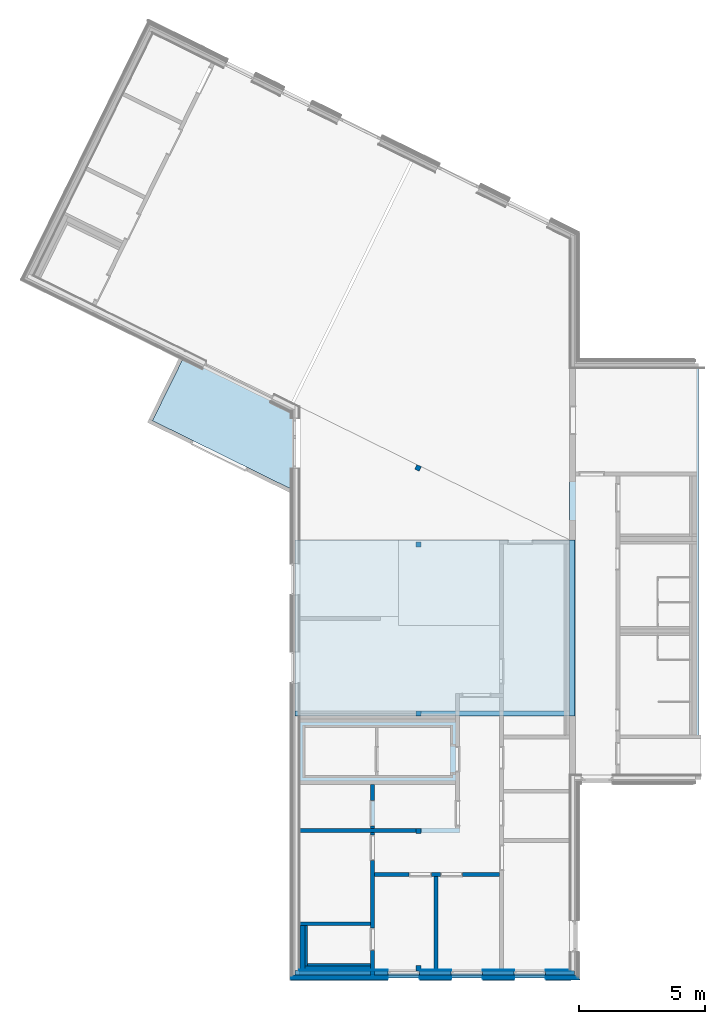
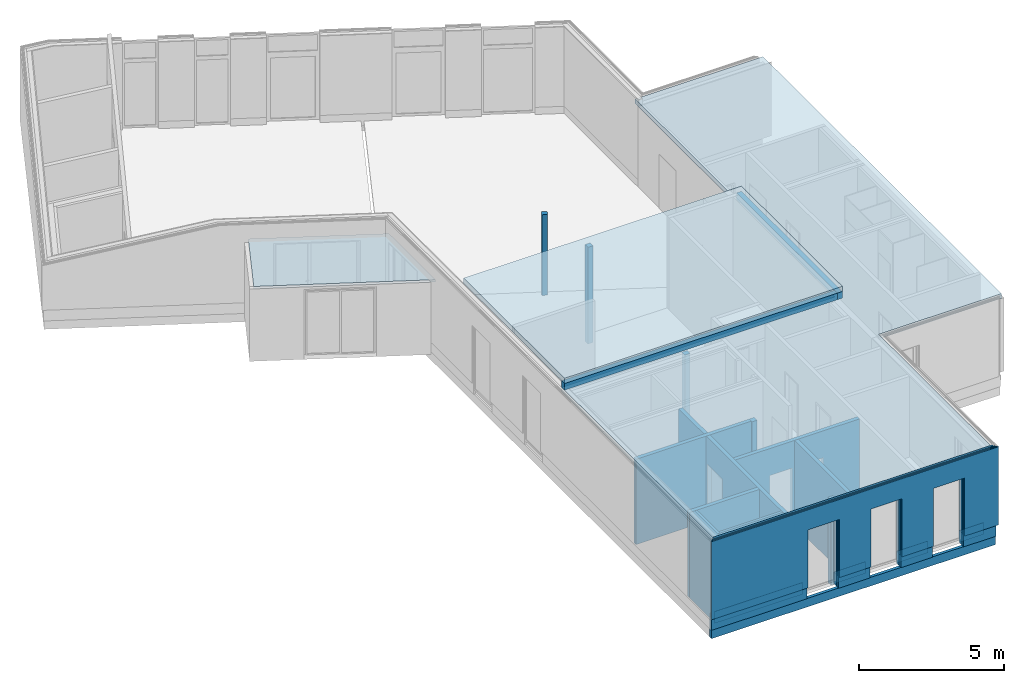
# One storey, part 1 of 23: 21 walls, 5 columns, 3 slabs, 2 beams, 38 openings.
"""IFC4 building model written with IfcOpenShell, lengths in metres."""

from ifc_helpers import new_model, entity, si_unit, converted_unit, derived_unit, frame, frame_2d, origin, origin_with_axes, place, context, subcontext, project, spatial, polyline, rectangle, outline, extrude, material, element, save


model = new_model("IFC4")

# Units and contexts
model_context = context("Model", 3, precision=1e-05, world=origin())
body_context = subcontext(model_context, "Body", "Model", "MODEL_VIEW")
ifc_project = project(units=[si_unit("LENGTHUNIT", "METRE"), si_unit("AREAUNIT", "SQUARE_METRE"), si_unit("VOLUMEUNIT", "CUBIC_METRE"), si_unit("MASSUNIT", "GRAM", prefix="KILO"), converted_unit("PLANEANGLEUNIT", "DEGREE", entity("IfcPlaneAngleMeasure", 0.0174532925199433), si_unit("PLANEANGLEUNIT", "RADIAN"), dimensions=[0, 0, 0, 0, 0, 0, 0]), derived_unit("THERMALTRANSMITTANCEUNIT", [(si_unit("POWERUNIT", "WATT"), 1), (si_unit("THERMODYNAMICTEMPERATUREUNIT", "KELVIN"), -1), (si_unit("LENGTHUNIT", "METRE"), -2)]), derived_unit("VOLUMETRICFLOWRATEUNIT", [(si_unit("LENGTHUNIT", "METRE"), 3), (converted_unit("TIMEUNIT", "hour", entity("IfcTimeMeasure", 3600.0), si_unit("TIMEUNIT", "SECOND"), dimensions=[0, 0, 1, 0, 0, 0, 0]), -1), (si_unit("LENGTHUNIT", "METRE"), -1)])], contexts=[model_context])

# Site, building, storey
site_placement = place(None, origin())
site = spatial("IfcSite", under=ifc_project, at=site_placement, Name="Psychiatrie Neubau Wunstorf", CompositionType="ELEMENT")
building_placement = place(site_placement, origin())
building = spatial("IfcBuilding", under=site, at=building_placement, Name="Neubau H1 Sozialzentrum", CompositionType="ELEMENT")
storey_placement = place(building_placement, frame((0.0, 0.0, 0.7)))
storey = spatial("IfcBuildingStorey", under=building, at=storey_placement, Name="H1 Ebene 0", CompositionType="ELEMENT", Elevation=0.7)

# Columns
ifc_material_1 = material(Name="ST-H")
column_1_placement = place(storey_placement, frame((-11.0459348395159, 24.1964903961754, 0.0)))
element("IfcColumn", 1, at=column_1_placement, inside=storey, material=ifc_material_1, PredefinedType="COLUMN", context=body_context, shape_type="SweptSolid", body=[
    extrude(rectangle(XDim=0.200000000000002, YDim=0.200000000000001, at=frame_2d((-0.133912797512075, -0.0454682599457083), x_axis=(-0.896905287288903, 0.442222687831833))), origin_with_axes(), (0.0, 0.0, 1.0), 3.4),
])
ifc_material_2 = material(Name="ST-ST")
column_2_placement = place(storey_placement, frame((-11.0545268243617, 9.86239262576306, -0.2)))
element("IfcColumn", 2, at=column_2_placement, inside=storey, material=ifc_material_2, PredefinedType="COLUMN", context=body_context, shape_type="SweptSolid", body=[
    extrude(rectangle(XDim=0.2, YDim=0.2, at=frame_2d((-0.1, -0.1), x_axis=(-1.0, 0.0))), origin_with_axes(), (0.0, 0.0, 1.0), 3.6),
])
ifc_material_3 = material(Name="ST-ST")
column_3_placement = place(storey_placement, frame((-11.0545268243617, 14.5122462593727, -0.2)))
element("IfcColumn", 3, at=column_3_placement, inside=storey, material=ifc_material_3, PredefinedType="COLUMN", context=body_context, shape_type="SweptSolid", body=[
    extrude(rectangle(XDim=0.2, YDim=0.2, at=frame_2d((-0.1, -0.1), x_axis=(-1.0, 0.0))), origin_with_axes(), (0.0, 0.0, 1.0), 3.6),
])
ifc_material_4 = material(Name="ST-ST")
column_4_placement = place(storey_placement, frame((-11.0545268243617, 4.42632131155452, -0.2)))
element("IfcColumn", 4, at=column_4_placement, inside=storey, material=ifc_material_4, PredefinedType="COLUMN", context=body_context, shape_type="SweptSolid", body=[
    extrude(rectangle(XDim=0.2, YDim=0.2, at=frame_2d((-0.1, -0.1), x_axis=(-1.0, 0.0))), origin_with_axes(), (0.0, 0.0, 1.0), 3.6),
])
ifc_material_5 = material(Name="ST-ST")
column_5_placement = place(storey_placement, frame((-11.0545268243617, 21.211337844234, -0.2)))
element("IfcColumn", 5, at=column_5_placement, inside=storey, material=ifc_material_5, PredefinedType="COLUMN", context=body_context, shape_type="SweptSolid", body=[
    extrude(rectangle(XDim=0.2, YDim=0.2, at=frame_2d((-0.1, -0.1), x_axis=(-1.0, 0.0))), origin_with_axes(), (0.0, 0.0, 1.0), 4.08),
])

# Beams
ifc_material_6 = material(Name="Holz")
beam_1_placement = place(storey_placement, frame((-5.16652529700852, 21.2882463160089, 3.6), z_axis=(0.0, 0.0, 1.0), x_axis=(0.0, -1.0, 0.0)))
element("IfcBeam", 6, at=beam_1_placement, inside=storey, material=ifc_material_6, PredefinedType="NOTDEFINED", context=body_context, shape_type="SweptSolid", body=[
    extrude(rectangle(XDim=0.2, YDim=0.28, at=frame_2d((0.1, 0.14), x_axis=(1.0, 0.0))), frame((0.0, 0.0, 0.0), z_axis=(1.0, 0.0, 0.0), x_axis=(0.0, 1.0, 0.0)), (0.0, 0.0, 1.0), 6.97600005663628),
])
ifc_material_7 = material(Name="Holz")
beam_2_placement = place(storey_placement, frame((-5.16652529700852, 14.5122462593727, 3.6), z_axis=(0.0, 0.0, 1.0), x_axis=(-1.0, 0.0, 0.0)))
element("IfcBeam", 7, at=beam_2_placement, inside=storey, material=ifc_material_7, PredefinedType="NOTDEFINED", context=body_context, shape_type="SweptSolid", body=[
    extrude(rectangle(XDim=0.2, YDim=0.28, at=frame_2d((0.1, 0.14), x_axis=(1.0, 0.0))), frame((0.0, 0.0, 0.0), z_axis=(1.0, 0.0, 0.0), x_axis=(0.0, 1.0, 0.0)), (0.0, 0.0, 1.0), 10.892000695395),
])

# Slabs
ifc_material_8 = material(Name="H")
slab_1_placement = place(storey_placement, frame((-16.0585259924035, 14.3122462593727, 3.88)))
element("IfcSlab", 8, at=slab_1_placement, inside=storey, material=ifc_material_8, PredefinedType="FLOOR", context=body_context, shape_type="SweptSolid", body=[
    extrude(rectangle(XDim=11.0880010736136, YDim=6.97600005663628, at=frame_2d((5.5440005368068, 3.48800002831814), x_axis=(1.0, 0.0))), origin_with_axes(), (0.0, 0.0, 1.0), 0.22),
])
ifc_material_9 = material(Name="H")
slab_2_placement = place(storey_placement, frame((-16.0585259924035, 4.06632204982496, 3.4)))
element("IfcSlab", 9, at=slab_2_placement, inside=storey, material=ifc_material_9, PredefinedType="FLOOR", context=body_context, shape_type="SweptSolid", body=[
    extrude(outline(polyline([(0.0, 10.4459242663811), (0.0, 0.0), (11.0880010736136, 0.0), (11.0880010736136, 7.72992418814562), (15.9925259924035, 7.72992418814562), (15.9925259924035, 24.2239225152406), (10.892000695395, 24.2239225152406), (10.892000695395, 10.4459242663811), (0.0, 10.4459242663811)])), origin_with_axes(), (0.0, 0.0, 1.0), 0.2),
])
ifc_material_10 = material(Name="H")
slab_3_placement = place(storey_placement, frame((-21.7041744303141, 23.2392562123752, 2.75)))
element("IfcSlab", 10, at=slab_3_placement, inside=storey, material=ifc_material_10, PredefinedType="FLOOR", context=body_context, shape_type="SweptSolid", body=[
    extrude(outline(polyline([(1.27325741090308, 5.36600733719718), (0.0, 2.78360100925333), (5.64564843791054, 0.0), (5.64564766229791, 3.21018308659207), (1.27325741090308, 5.36600733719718)])), origin_with_axes(), (0.0, 0.0, 1.0), 0.1),
])

# Wall, openings
ifc_material_11 = material(Name="WA-LB")
wall_1_placement = place(storey_placement, frame((-5.13052506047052, 4.26232136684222, 0.3), z_axis=(0.0, 0.0, 1.0), x_axis=(-1.0, 5.08476275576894e-16, 0.0)))
wall_1 = element("IfcWall", 11, at=wall_1_placement, inside=storey, material=ifc_material_11, context=body_context, shape_type="SweptSolid", body=[
    extrude(rectangle(XDim=10.7320016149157, YDim=0.0359999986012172, at=frame_2d((5.36600080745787, 0.0179999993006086), x_axis=(1.0, 0.0))), origin_with_axes(), (0.0, 0.0, 1.0), 3.1),
])
opening_1_placement = place(wall_1_placement, frame((5.98800145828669, 0.0, -0.5), z_axis=(0.0, 1.0, 0.0), x_axis=(0.0, 0.0, 1.0)))
element("IfcOpeningElement", 12, at=opening_1_placement, cuts=wall_1, Name="Fensteröffnung", ObjectType="Opening", context=body_context, shape_type="SweptSolid", body=[
    extrude(outline(polyline([(2.95, 1.25), (2.95, 0.0), (0.0, 0.0), (0.0, 1.25), (2.95, 1.25)])), origin_with_axes(), (0.0, 0.0, 1.0), 0.0359999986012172),
])
opening_2_placement = place(wall_1_placement, frame((0.988001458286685, 0.0, -0.5), z_axis=(0.0, 1.0, 0.0), x_axis=(0.0, 0.0, 1.0)))
element("IfcOpeningElement", 13, at=opening_2_placement, cuts=wall_1, Name="Fensteröffnung", ObjectType="Opening", context=body_context, shape_type="SweptSolid", body=[
    extrude(outline(polyline([(2.95, 1.25), (2.95, 0.0), (0.0, 0.0), (0.0, 1.25), (2.95, 1.25)])), origin_with_axes(), (0.0, 0.0, 1.0), 0.0359999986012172),
])
opening_3_placement = place(wall_1_placement, frame((3.48800145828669, 0.0, -0.5), z_axis=(0.0, 1.0, 0.0), x_axis=(0.0, 0.0, 1.0)))
element("IfcOpeningElement", 14, at=opening_3_placement, cuts=wall_1, Name="Fensteröffnung", ObjectType="Opening", context=body_context, shape_type="SweptSolid", body=[
    extrude(outline(polyline([(2.95, 1.25), (2.95, 0.0), (0.0, 0.0), (0.0, 1.25), (2.95, 1.25)])), origin_with_axes(), (0.0, 0.0, 1.0), 0.0359999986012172),
])

ifc_material_12 = material(Name="WA-HD")
wall_2_placement = place(storey_placement, frame((-4.97052496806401, 4.226321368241, 0.3), z_axis=(0.0, 0.0, 1.0), x_axis=(-1.0, 4.9935645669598e-16, 0.0)))
wall_2 = element("IfcWall", 15, at=wall_2_placement, inside=storey, material=ifc_material_12, context=body_context, shape_type="SweptSolid", body=[
    extrude(rectangle(XDim=10.9280017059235, YDim=0.159999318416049, at=frame_2d((5.46400085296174, 0.0799996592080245), x_axis=(1.0, 0.0))), origin_with_axes(), (0.0, 0.0, 1.0), 3.1),
])
opening_4_placement = place(wall_2_placement, frame((6.14800155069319, 0.0, -0.5), z_axis=(0.0, 1.0, 0.0), x_axis=(0.0, 0.0, 1.0)))
element("IfcOpeningElement", 16, at=opening_4_placement, cuts=wall_2, Name="Fensteröffnung", ObjectType="Opening", context=body_context, shape_type="SweptSolid", body=[
    extrude(outline(polyline([(2.95, 1.25), (2.95, 0.0), (0.0, 0.0), (0.0, 1.25), (2.95, 1.25)])), origin_with_axes(), (0.0, 0.0, 1.0), 0.159999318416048),
])
opening_5_placement = place(wall_2_placement, frame((1.14800155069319, 0.0, -0.5), z_axis=(0.0, 1.0, 0.0), x_axis=(0.0, 0.0, 1.0)))
element("IfcOpeningElement", 17, at=opening_5_placement, cuts=wall_2, Name="Fensteröffnung", ObjectType="Opening", context=body_context, shape_type="SweptSolid", body=[
    extrude(outline(polyline([(2.95, 1.25), (2.95, 0.0), (0.0, 0.0), (0.0, 1.25), (2.95, 1.25)])), origin_with_axes(), (0.0, 0.0, 1.0), 0.159999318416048),
])
opening_6_placement = place(wall_2_placement, frame((3.64800155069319, 0.0, -0.5), z_axis=(0.0, 1.0, 0.0), x_axis=(0.0, 0.0, 1.0)))
element("IfcOpeningElement", 18, at=opening_6_placement, cuts=wall_2, Name="Fensteröffnung", ObjectType="Opening", context=body_context, shape_type="SweptSolid", body=[
    extrude(outline(polyline([(2.95, 1.25), (2.95, 0.0), (0.0, 0.0), (0.0, 1.25), (2.95, 1.25)])), origin_with_axes(), (0.0, 0.0, 1.0), 0.159999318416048),
])

ifc_material_13 = material(Name="WA-DL")
wall_3_placement = place(storey_placement, frame((-4.89052488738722, 4.06632204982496, 0.3), z_axis=(0.0, 0.0, 1.0), x_axis=(-1.0, 4.88625328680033e-16, 0.0)))
wall_3 = element("IfcWall", 19, at=wall_3_placement, inside=storey, material=ifc_material_13, context=body_context, shape_type="SweptSolid", body=[
    extrude(rectangle(XDim=11.1680011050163, YDim=0.0800000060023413, at=frame_2d((5.58400055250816, 0.0400000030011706), x_axis=(1.0, 0.0))), origin_with_axes(), (0.0, 0.0, 1.0), 3.3),
])
opening_7_placement = place(wall_3_placement, frame((6.22800163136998, 0.0, -0.5), z_axis=(0.0, 1.0, 0.0), x_axis=(0.0, 0.0, 1.0)))
element("IfcOpeningElement", 20, at=opening_7_placement, cuts=wall_3, Name="Fensteröffnung", ObjectType="Opening", context=body_context, shape_type="SweptSolid", body=[
    extrude(outline(polyline([(2.95, 1.25), (2.95, 0.0), (0.0, 0.0), (0.0, 1.25), (2.95, 1.25)])), origin_with_axes(), (0.0, 0.0, 1.0), 0.0800000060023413),
])
opening_8_placement = place(wall_3_placement, frame((1.22800163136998, 0.0, -0.5), z_axis=(0.0, 1.0, 0.0), x_axis=(0.0, 0.0, 1.0)))
element("IfcOpeningElement", 21, at=opening_8_placement, cuts=wall_3, Name="Fensteröffnung", ObjectType="Opening", context=body_context, shape_type="SweptSolid", body=[
    extrude(outline(polyline([(2.95, 1.25), (2.95, 0.0), (0.0, 0.0), (0.0, 1.25), (2.95, 1.25)])), origin_with_axes(), (0.0, 0.0, 1.0), 0.0800000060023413),
])
opening_9_placement = place(wall_3_placement, frame((3.72800163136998, 0.0, -0.5), z_axis=(0.0, 1.0, 0.0), x_axis=(0.0, 0.0, 1.0)))
element("IfcOpeningElement", 22, at=opening_9_placement, cuts=wall_3, Name="Fensteröffnung", ObjectType="Opening", context=body_context, shape_type="SweptSolid", body=[
    extrude(outline(polyline([(2.95, 1.25), (2.95, 0.0), (0.0, 0.0), (0.0, 1.25), (2.95, 1.25)])), origin_with_axes(), (0.0, 0.0, 1.0), 0.0800000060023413),
])

ifc_material_14 = material(Name="WA-LB")
wall_4_placement = place(storey_placement, frame((-4.85452484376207, 3.98632204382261, 0.3), z_axis=(0.0, 0.0, 1.0), x_axis=(-1.0, 4.83602237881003e-16, 0.0)))
wall_4 = element("IfcWall", 23, at=wall_4_placement, inside=storey, material=ifc_material_14, context=body_context, shape_type="SweptSolid", body=[
    extrude(rectangle(XDim=11.2840011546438, YDim=0.0360000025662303, at=frame_2d((5.6420005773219, 0.0180000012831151), x_axis=(1.0, 0.0))), origin_with_axes(), (0.0, 0.0, 1.0), 3.3),
])
opening_10_placement = place(wall_4_placement, frame((6.26400167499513, 0.0, -0.5), z_axis=(0.0, 1.0, 0.0), x_axis=(0.0, 0.0, 1.0)))
element("IfcOpeningElement", 24, at=opening_10_placement, cuts=wall_4, Name="Fensteröffnung", ObjectType="Opening", context=body_context, shape_type="SweptSolid", body=[
    extrude(outline(polyline([(2.95, 1.25), (2.95, 0.0), (0.0, 0.0), (0.0, 1.25), (2.95, 1.25)])), origin_with_axes(), (0.0, 0.0, 1.0), 0.0360000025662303),
])
opening_11_placement = place(wall_4_placement, frame((1.26400167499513, 0.0, -0.5), z_axis=(0.0, 1.0, 0.0), x_axis=(0.0, 0.0, 1.0)))
element("IfcOpeningElement", 25, at=opening_11_placement, cuts=wall_4, Name="Fensteröffnung", ObjectType="Opening", context=body_context, shape_type="SweptSolid", body=[
    extrude(outline(polyline([(2.95, 1.25), (2.95, 0.0), (0.0, 0.0), (0.0, 1.25), (2.95, 1.25)])), origin_with_axes(), (0.0, 0.0, 1.0), 0.0360000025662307),
])
opening_12_placement = place(wall_4_placement, frame((3.76400167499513, 0.0, -0.5), z_axis=(0.0, 1.0, 0.0), x_axis=(0.0, 0.0, 1.0)))
element("IfcOpeningElement", 26, at=opening_12_placement, cuts=wall_4, Name="Fensteröffnung", ObjectType="Opening", context=body_context, shape_type="SweptSolid", body=[
    extrude(outline(polyline([(2.95, 1.25), (2.95, 0.0), (0.0, 0.0), (0.0, 1.25), (2.95, 1.25)])), origin_with_axes(), (0.0, 0.0, 1.0), 0.0360000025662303),
])

ifc_material_15 = material(Name="WA-KL")
wall_5_placement = place(storey_placement, frame((-4.83052481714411, 3.95032204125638, 0.3), z_axis=(0.0, 0.0, 1.0), x_axis=(-1.0, 4.81044397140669e-16, 0.0)))
wall_5 = element("IfcWall", 27, at=wall_5_placement, inside=storey, material=ifc_material_15, context=body_context, shape_type="SweptSolid", body=[
    extrude(rectangle(XDim=11.344001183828, YDim=0.0239992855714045, at=frame_2d((5.672000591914, 0.0119996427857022), x_axis=(1.0, 0.0))), origin_with_axes(), (0.0, 0.0, 1.0), 3.3),
])
opening_13_placement = place(wall_5_placement, frame((6.28800170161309, 0.0, -0.5), z_axis=(0.0, 1.0, 0.0), x_axis=(0.0, 0.0, 1.0)))
element("IfcOpeningElement", 28, at=opening_13_placement, cuts=wall_5, Name="Fensteröffnung", ObjectType="Opening", context=body_context, shape_type="SweptSolid", body=[
    extrude(outline(polyline([(2.95, 1.25), (2.95, 0.0), (0.0, 0.0), (0.0, 1.25), (2.95, 1.25)])), origin_with_axes(), (0.0, 0.0, 1.0), 0.0239992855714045),
])
opening_14_placement = place(wall_5_placement, frame((1.28800170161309, 0.0, -0.5), z_axis=(0.0, 1.0, 0.0), x_axis=(0.0, 0.0, 1.0)))
element("IfcOpeningElement", 29, at=opening_14_placement, cuts=wall_5, Name="Fensteröffnung", ObjectType="Opening", context=body_context, shape_type="SweptSolid", body=[
    extrude(outline(polyline([(2.95, 1.25), (2.95, 0.0), (0.0, 0.0), (0.0, 1.25), (2.95, 1.25)])), origin_with_axes(), (0.0, 0.0, 1.0), 0.0239992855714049),
])
opening_15_placement = place(wall_5_placement, frame((3.78800170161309, 0.0, -0.5), z_axis=(0.0, 1.0, 0.0), x_axis=(0.0, 0.0, 1.0)))
element("IfcOpeningElement", 30, at=opening_15_placement, cuts=wall_5, Name="Fensteröffnung", ObjectType="Opening", context=body_context, shape_type="SweptSolid", body=[
    extrude(outline(polyline([(2.95, 1.25), (2.95, 0.0), (0.0, 0.0), (0.0, 1.25), (2.95, 1.25)])), origin_with_axes(), (0.0, 0.0, 1.0), 0.0239992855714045),
])

ifc_material_16 = material(Name="WA-TL")
wall_6_placement = place(storey_placement, frame((-4.80652478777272, 3.92632275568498, 0.3), z_axis=(0.0, 0.0, 1.0), x_axis=(-1.0, 4.79017553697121e-16, 0.0)))
wall_6 = element("IfcWall", 31, at=wall_6_placement, inside=storey, material=ifc_material_16, context=body_context, shape_type="SweptSolid", body=[
    extrude(rectangle(XDim=11.3920004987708, YDim=0.024, at=frame_2d((5.6960002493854, 0.012), x_axis=(1.0, 0.0))), origin_with_axes(), (0.0, 0.0, 1.0), 3.3),
])
opening_16_placement = place(wall_6_placement, frame((6.31200173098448, 0.0, -0.5), z_axis=(0.0, 1.0, 0.0), x_axis=(0.0, 0.0, 1.0)))
element("IfcOpeningElement", 32, at=opening_16_placement, cuts=wall_6, Name="Fensteröffnung", ObjectType="Opening", context=body_context, shape_type="SweptSolid", body=[
    extrude(outline(polyline([(2.95, 1.25), (2.95, 0.0), (0.0, 0.0), (0.0, 1.25), (2.95, 1.25)])), origin_with_axes(), (0.0, 0.0, 1.0), 0.024),
])
opening_17_placement = place(wall_6_placement, frame((1.31200173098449, 0.0, -0.5), z_axis=(0.0, 1.0, 0.0), x_axis=(0.0, 0.0, 1.0)))
element("IfcOpeningElement", 33, at=opening_17_placement, cuts=wall_6, Name="Fensteröffnung", ObjectType="Opening", context=body_context, shape_type="SweptSolid", body=[
    extrude(outline(polyline([(2.95, 1.25), (2.95, 0.0), (0.0, 0.0), (0.0, 1.25), (2.95, 1.25)])), origin_with_axes(), (0.0, 0.0, 1.0), 0.0240000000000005),
])
opening_18_placement = place(wall_6_placement, frame((3.81200173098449, 0.0, -0.5), z_axis=(0.0, 1.0, 0.0), x_axis=(0.0, 0.0, 1.0)))
element("IfcOpeningElement", 34, at=opening_18_placement, cuts=wall_6, Name="Fensteröffnung", ObjectType="Opening", context=body_context, shape_type="SweptSolid", body=[
    extrude(outline(polyline([(2.95, 1.25), (2.95, 0.0), (0.0, 0.0), (0.0, 1.25), (2.95, 1.25)])), origin_with_axes(), (0.0, 0.0, 1.0), 0.024),
])

ifc_material_17 = material(Name="WA-HS")
wall_7_placement = place(storey_placement, frame((-4.76452479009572, 3.90232275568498, 0.3), z_axis=(0.0, 0.0, 1.0), x_axis=(-1.0, 4.76258332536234e-16, 0.0)))
wall_7 = element("IfcWall", 35, at=wall_7_placement, inside=storey, material=ifc_material_17, context=body_context, shape_type="SweptSolid", body=[
    extrude(rectangle(XDim=11.4580004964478, YDim=0.042, at=frame_2d((5.7290002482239, 0.021), x_axis=(1.0, 0.0))), origin_with_axes(), (0.0, 0.0, 1.0), 3.3),
])
opening_19_placement = place(wall_7_placement, frame((6.35400172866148, 0.0, -0.5), z_axis=(0.0, 1.0, 0.0), x_axis=(0.0, 0.0, 1.0)))
element("IfcOpeningElement", 36, at=opening_19_placement, cuts=wall_7, Name="Fensteröffnung", ObjectType="Opening", context=body_context, shape_type="SweptSolid", body=[
    extrude(outline(polyline([(2.95, 1.25), (2.95, 0.0), (0.0, 0.0), (0.0, 1.25), (2.95, 1.25)])), origin_with_axes(), (0.0, 0.0, 1.0), 0.042),
])
opening_20_placement = place(wall_7_placement, frame((1.35400172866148, 0.0, -0.5), z_axis=(0.0, 1.0, 0.0), x_axis=(0.0, 0.0, 1.0)))
element("IfcOpeningElement", 37, at=opening_20_placement, cuts=wall_7, Name="Fensteröffnung", ObjectType="Opening", context=body_context, shape_type="SweptSolid", body=[
    extrude(outline(polyline([(2.95, 1.25), (2.95, 0.0), (0.0, 0.0), (0.0, 1.25), (2.95, 1.25)])), origin_with_axes(), (0.0, 0.0, 1.0), 0.0420000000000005),
])
opening_21_placement = place(wall_7_placement, frame((3.85400172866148, 0.0, -0.5), z_axis=(0.0, 1.0, 0.0), x_axis=(0.0, 0.0, 1.0)))
element("IfcOpeningElement", 38, at=opening_21_placement, cuts=wall_7, Name="Fensteröffnung", ObjectType="Opening", context=body_context, shape_type="SweptSolid", body=[
    extrude(outline(polyline([(2.95, 1.25), (2.95, 0.0), (0.0, 0.0), (0.0, 1.25), (2.95, 1.25)])), origin_with_axes(), (0.0, 0.0, 1.0), 0.042),
])

ifc_material_18 = material(Name="WA-LB")
wall_8_placement = place(storey_placement, frame((-5.14552559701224, 4.26232204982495, -0.2), z_axis=(0.0, 0.0, 1.0), x_axis=(-1.0, 0.0, 0.0)))
wall_8 = element("IfcWall", 39, at=wall_8_placement, inside=storey, material=ifc_material_18, context=body_context, shape_type="SweptSolid", body=[
    extrude(rectangle(XDim=10.7380003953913, YDim=0.0209999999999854, at=frame_2d((5.36900019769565, 0.0104999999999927), x_axis=(1.0, 0.0))), origin_with_axes(), (0.0, 0.0, 1.0), 0.5),
])
opening_22_placement = place(wall_8_placement, frame((2.22300092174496, 0.0209999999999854, 0.0), z_axis=(0.0, -1.0, 0.0), x_axis=(0.0, 0.0, 1.0)))
element("IfcOpeningElement", 40, at=opening_22_placement, cuts=wall_8, Name="Wanddurchbruch", ObjectType="Opening", context=body_context, shape_type="SweptSolid", body=[
    extrude(outline(polyline([(0.5, 1.25), (0.5, 0.0), (0.0, 0.0), (0.0, 1.25), (0.5, 1.25)])), origin_with_axes(), (0.0, 0.0, 1.0), 0.0209999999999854),
])
opening_23_placement = place(wall_8_placement, frame((4.72300092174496, 0.0209999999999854, 0.0), z_axis=(0.0, -1.0, 0.0), x_axis=(0.0, 0.0, 1.0)))
element("IfcOpeningElement", 41, at=opening_23_placement, cuts=wall_8, Name="Wanddurchbruch", ObjectType="Opening", context=body_context, shape_type="SweptSolid", body=[
    extrude(outline(polyline([(0.5, 1.25), (0.5, 0.0), (0.0, 0.0), (0.0, 1.25), (0.5, 1.25)])), origin_with_axes(), (0.0, 0.0, 1.0), 0.0209999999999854),
])
opening_24_placement = place(wall_8_placement, frame((7.22300092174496, 0.0209999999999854, 0.0), z_axis=(0.0, -1.0, 0.0), x_axis=(0.0, 0.0, 1.0)))
element("IfcOpeningElement", 42, at=opening_24_placement, cuts=wall_8, Name="Wanddurchbruch", ObjectType="Opening", context=body_context, shape_type="SweptSolid", body=[
    extrude(outline(polyline([(0.5, 1.25), (0.5, 0.0), (0.0, 0.0), (0.0, 1.25), (0.5, 1.25)])), origin_with_axes(), (0.0, 0.0, 1.0), 0.0209999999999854),
])

ifc_material_19 = material(Name="WA-STB")
wall_9_placement = place(storey_placement, frame((-4.97052559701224, 4.24132204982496, -0.2), z_axis=(0.0, 0.0, 1.0), x_axis=(-1.0, 0.0, 0.0)))
wall_9 = element("IfcWall", 43, at=wall_9_placement, inside=storey, material=ifc_material_19, context=body_context, shape_type="SweptSolid", body=[
    extrude(rectangle(XDim=11.0880003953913, YDim=0.175, at=frame_2d((5.54400019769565, 0.0875), x_axis=(1.0, 0.0))), origin_with_axes(), (0.0, 0.0, 1.0), 0.5),
])
opening_25_placement = place(wall_9_placement, frame((2.39800092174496, 0.175, 0.0), z_axis=(0.0, -1.0, 0.0), x_axis=(0.0, 0.0, 1.0)))
element("IfcOpeningElement", 44, at=opening_25_placement, cuts=wall_9, Name="Wanddurchbruch", ObjectType="Opening", context=body_context, shape_type="SweptSolid", body=[
    extrude(outline(polyline([(0.5, 1.25), (0.5, 0.0), (0.0, 0.0), (0.0, 1.25), (0.5, 1.25)])), origin_with_axes(), (0.0, 0.0, 1.0), 0.175),
])
opening_26_placement = place(wall_9_placement, frame((4.89800092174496, 0.175, 0.0), z_axis=(0.0, -1.0, 0.0), x_axis=(0.0, 0.0, 1.0)))
element("IfcOpeningElement", 45, at=opening_26_placement, cuts=wall_9, Name="Wanddurchbruch", ObjectType="Opening", context=body_context, shape_type="SweptSolid", body=[
    extrude(outline(polyline([(0.5, 1.25), (0.5, 0.0), (0.0, 0.0), (0.0, 1.25), (0.5, 1.25)])), origin_with_axes(), (0.0, 0.0, 1.0), 0.175),
])
opening_27_placement = place(wall_9_placement, frame((7.39800092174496, 0.175, 0.0), z_axis=(0.0, -1.0, 0.0), x_axis=(0.0, 0.0, 1.0)))
element("IfcOpeningElement", 46, at=opening_27_placement, cuts=wall_9, Name="Wanddurchbruch", ObjectType="Opening", context=body_context, shape_type="SweptSolid", body=[
    extrude(outline(polyline([(0.5, 1.25), (0.5, 0.0), (0.0, 0.0), (0.0, 1.25), (0.5, 1.25)])), origin_with_axes(), (0.0, 0.0, 1.0), 0.175),
])

ifc_material_20 = material(Name="WA-DE")
wall_10_placement = place(storey_placement, frame((-4.85052559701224, 4.06632204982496, -0.56), z_axis=(0.0, 0.0, 1.0), x_axis=(-1.0, 0.0, 0.0)))
wall_10 = element("IfcWall", 47, at=wall_10_placement, inside=storey, material=ifc_material_20, context=body_context, shape_type="SweptSolid", body=[
    extrude(rectangle(XDim=11.3280003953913, YDim=0.120000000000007, at=frame_2d((5.66400019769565, 0.0600000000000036), x_axis=(1.0, 0.0))), origin_with_axes(), (0.0, 0.0, 1.0), 0.86),
])
opening_28_placement = place(wall_10_placement, frame((2.51800092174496, 0.120000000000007, 0.36), z_axis=(0.0, -1.0, 0.0), x_axis=(0.0, 0.0, 1.0)))
element("IfcOpeningElement", 48, at=opening_28_placement, cuts=wall_10, Name="Wanddurchbruch", ObjectType="Opening", context=body_context, shape_type="SweptSolid", body=[
    extrude(outline(polyline([(0.5, 1.25), (0.5, 0.0), (0.0, 0.0), (0.0, 1.25), (0.5, 1.25)])), origin_with_axes(), (0.0, 0.0, 1.0), 0.120000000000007),
])
opening_29_placement = place(wall_10_placement, frame((5.01800092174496, 0.120000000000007, 0.36), z_axis=(0.0, -1.0, 0.0), x_axis=(0.0, 0.0, 1.0)))
element("IfcOpeningElement", 49, at=opening_29_placement, cuts=wall_10, Name="Wanddurchbruch", ObjectType="Opening", context=body_context, shape_type="SweptSolid", body=[
    extrude(outline(polyline([(0.5, 1.25), (0.5, 0.0), (0.0, 0.0), (0.0, 1.25), (0.5, 1.25)])), origin_with_axes(), (0.0, 0.0, 1.0), 0.120000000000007),
])
opening_30_placement = place(wall_10_placement, frame((7.51800092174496, 0.120000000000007, 0.36), z_axis=(0.0, -1.0, 0.0), x_axis=(0.0, 0.0, 1.0)))
element("IfcOpeningElement", 50, at=opening_30_placement, cuts=wall_10, Name="Wanddurchbruch", ObjectType="Opening", context=body_context, shape_type="SweptSolid", body=[
    extrude(outline(polyline([(0.5, 1.25), (0.5, 0.0), (0.0, 0.0), (0.0, 1.25), (0.5, 1.25)])), origin_with_axes(), (0.0, 0.0, 1.0), 0.120000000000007),
])

ifc_material_21 = material(Name="WA-LB")
wall_11_placement = place(storey_placement, frame((-4.83552559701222, 3.94632204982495, -0.2), z_axis=(0.0, 0.0, 1.0), x_axis=(-1.0, 0.0, 0.0)))
wall_11 = element("IfcWall", 51, at=wall_11_placement, inside=storey, material=ifc_material_21, context=body_context, shape_type="SweptSolid", body=[
    extrude(rectangle(XDim=11.3580003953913, YDim=0.0150000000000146, at=frame_2d((5.67900019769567, 0.00750000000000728), x_axis=(1.0, 0.0))), origin_with_axes(), (0.0, 0.0, 1.0), 0.5),
])
opening_31_placement = place(wall_11_placement, frame((2.53300092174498, 0.0150000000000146, 0.0), z_axis=(0.0, -1.0, 0.0), x_axis=(0.0, 0.0, 1.0)))
element("IfcOpeningElement", 52, at=opening_31_placement, cuts=wall_11, Name="Wanddurchbruch", ObjectType="Opening", context=body_context, shape_type="SweptSolid", body=[
    extrude(outline(polyline([(0.5, 1.25), (0.5, 0.0), (0.0, 0.0), (0.0, 1.25), (0.5, 1.25)])), origin_with_axes(), (0.0, 0.0, 1.0), 0.0150000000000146),
])
opening_32_placement = place(wall_11_placement, frame((5.03300092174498, 0.0150000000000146, 0.0), z_axis=(0.0, -1.0, 0.0), x_axis=(0.0, 0.0, 1.0)))
element("IfcOpeningElement", 53, at=opening_32_placement, cuts=wall_11, Name="Wanddurchbruch", ObjectType="Opening", context=body_context, shape_type="SweptSolid", body=[
    extrude(outline(polyline([(0.5, 1.25), (0.5, 0.0), (0.0, 0.0), (0.0, 1.25), (0.5, 1.25)])), origin_with_axes(), (0.0, 0.0, 1.0), 0.0150000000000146),
])
opening_33_placement = place(wall_11_placement, frame((7.53300092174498, 0.0150000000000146, 0.0), z_axis=(0.0, -1.0, 0.0), x_axis=(0.0, 0.0, 1.0)))
element("IfcOpeningElement", 54, at=opening_33_placement, cuts=wall_11, Name="Wanddurchbruch", ObjectType="Opening", context=body_context, shape_type="SweptSolid", body=[
    extrude(outline(polyline([(0.5, 1.25), (0.5, 0.0), (0.0, 0.0), (0.0, 1.25), (0.5, 1.25)])), origin_with_axes(), (0.0, 0.0, 1.0), 0.0150000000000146),
])

# Wall
ifc_material_22 = material(Name="WI-IW")
wall_12_placement = place(storey_placement, frame((-10.5445007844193, 7.96232493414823, -0.2), z_axis=(0.0, 0.0, 1.0), x_axis=(0.0, -1.0, 0.0)))
element("IfcWall", 55, at=wall_12_placement, inside=storey, material=ifc_material_22, context=body_context, shape_type="SweptSolid", body=[
    extrude(rectangle(XDim=3.70000356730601, YDim=0.15, at=frame_2d((1.850001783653, 0.075), x_axis=(1.0, 0.0))), origin_with_axes(), (0.0, 0.0, 1.0), 3.6),
])

# Wall, openings
ifc_material_23 = material(Name="WI-IW")
wall_13_placement = place(storey_placement, frame((-12.9120330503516, 4.00232136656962, -0.2), z_axis=(0.0, 0.0, 1.0), x_axis=(1.81740623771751e-09, 1.0, 0.0)))
wall_13 = element("IfcWall", 56, at=wall_13_placement, inside=storey, material=ifc_material_23, context=body_context, shape_type="SweptSolid", body=[
    extrude(rectangle(XDim=5.71006578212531, YDim=0.15, at=frame_2d((2.85503289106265, 0.075), x_axis=(1.0, 0.0))), origin_with_axes(), (0.0, 0.0, 1.0), 3.6),
])
opening_34_placement = place(wall_13_placement, frame((1.90999998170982, 0.149999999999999, 0.0), z_axis=(0.0, -1.0, 0.0), x_axis=(0.0, 0.0, 1.0)))
element("IfcOpeningElement", 57, at=opening_34_placement, cuts=wall_13, Name="Türöffnung", ObjectType="Opening", context=body_context, shape_type="SweptSolid", body=[
    extrude(outline(polyline([(2.46, 0.885000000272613), (2.46, 0.0), (0.0, 0.0), (0.0, 0.885000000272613), (2.46, 0.885000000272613)])), origin_with_axes(), (0.0, 0.0, 1.0), 0.15),
])
opening_35_placement = place(wall_13_placement, frame((5.60003535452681, 0.150000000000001, 0.0), z_axis=(6.06329801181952e-15, -1.0, 0.0), x_axis=(0.0, 0.0, 1.0)))
element("IfcOpeningElement", 58, at=opening_35_placement, cuts=wall_13, Name="Türöffnung", ObjectType="Opening", context=body_context, shape_type="SweptSolid", body=[
    extrude(outline(polyline([(2.46, 1.01000000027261), (2.46, 0.0), (0.0, 0.0), (0.0, 1.01000000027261), (2.46, 1.01000000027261)])), origin_with_axes(), (0.0, 0.0, 1.0), 0.15),
])

# Wall, opening
ifc_material_24 = material(Name="WI-IW")
wall_14_placement = place(storey_placement, frame((-12.9113693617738, 9.86239268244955, -0.2), z_axis=(0.0, 0.0, 1.0), x_axis=(0.0, 1.0, 0.0)))
wall_14 = element("IfcWall", 59, at=wall_14_placement, inside=storey, material=ifc_material_24, context=body_context, shape_type="SweptSolid", body=[
    extrude(outline(polyline([(0.0, -0.15), (1.74996779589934, -0.15), (1.74996953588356, 0.0), (1.11000000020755, 0.0), (0.0, 0.0), (0.0, -0.15)])), frame((0.0, 0.15, 0.0), z_axis=(0.0, 0.0, 1.0), x_axis=(1.0, 0.0, 0.0)), (0.0, 0.0, 1.0), 3.6),
])
opening_36_placement = place(wall_14_placement, frame((0.0999999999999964, 0.0, 0.0), z_axis=(0.0, 1.0, 0.0), x_axis=(0.0, 0.0, 1.0)))
element("IfcOpeningElement", 60, at=opening_36_placement, cuts=wall_14, Name="Türöffnung", ObjectType="Opening", context=body_context, shape_type="SweptSolid", body=[
    extrude(outline(polyline([(2.46, 1.01000000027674), (2.46, 0.0), (0.0, 0.0), (0.0, 1.01000000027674), (2.46, 1.01000000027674)])), origin_with_axes(), (0.0, 0.0, 1.0), 0.15),
])

# Walls
ifc_material_25 = material(Name="WI-IW")
wall_15_placement = place(storey_placement, frame((-13.0620330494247, 4.51232136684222, -0.2), z_axis=(0.0, 0.0, 1.0), x_axis=(-1.0, 7.34646624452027e-11, 0.0)))
element("IfcWall", 61, at=wall_15_placement, inside=storey, material=ifc_material_25, context=body_context, shape_type="SweptSolid", body=[
    extrude(rectangle(XDim=2.50049363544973, YDim=0.1, at=frame_2d((1.25024681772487, 0.05), x_axis=(1.0, 0.0))), origin_with_axes(), (0.0, 0.0, 1.0), 3.6),
])
ifc_material_26 = material(Name="Installationsraum")
wall_16_placement = place(storey_placement, frame((-13.0620330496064, 4.41232136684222, -0.2), z_axis=(0.0, 0.0, 1.0), x_axis=(-1.0, 7.34655281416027e-11, 0.0)))
element("IfcWall", 62, at=wall_16_placement, inside=storey, material=ifc_material_26, context=body_context, shape_type="SweptSolid", body=[
    extrude(rectangle(XDim=2.60049363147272, YDim=0.15, at=frame_2d((1.30024681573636, 0.0750000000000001), x_axis=(1.0, 0.0))), origin_with_axes(), (0.0, 0.0, 1.0), 3.6),
])
ifc_material_27 = material(Name="WI-IW")
wall_17_placement = place(storey_placement, frame((-15.5625266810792, 4.41232136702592, -0.2), z_axis=(0.0, 0.0, 1.0), x_axis=(-3.79527045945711e-08, 0.999999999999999, 0.0)))
element("IfcWall", 63, at=wall_17_placement, inside=storey, material=ifc_material_27, context=body_context, shape_type="SweptSolid", body=[
    extrude(rectangle(XDim=1.59999999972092, YDim=0.1, at=frame_2d((0.799999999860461, 0.05), x_axis=(1.0, 0.0))), origin_with_axes(), (0.0, 0.0, 1.0), 3.6),
])
ifc_material_28 = material(Name="Installationsraum")
wall_18_placement = place(storey_placement, frame((-15.6625266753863, 4.26232136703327, -0.2), z_axis=(0.0, 0.0, 1.0), x_axis=(-3.79527045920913e-08, 0.999999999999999, 0.0)))
element("IfcWall", 64, at=wall_18_placement, inside=storey, material=ifc_material_28, context=body_context, shape_type="SweptSolid", body=[
    extrude(outline(polyline([(0.0, -0.200000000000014), (1.74999999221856, -0.200000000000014), (1.75000000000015, -6.64172330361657e-08), (0.0, 0.0), (0.0, -0.200000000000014)])), frame((0.0, 0.200000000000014, 0.0), z_axis=(0.0, 0.0, 1.0), x_axis=(1.0, 0.0, 0.0)), (0.0, 0.0, 1.0), 3.6),
])
ifc_material_29 = material(Name="WI-IW")
wall_19_placement = place(storey_placement, frame((-9.5396569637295, 9.86239268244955, -0.2), z_axis=(0.0, 0.0, 1.0), x_axis=(-1.0, 0.0, 0.0)))
element("IfcWall", 65, at=wall_19_placement, inside=storey, material=ifc_material_29, context=body_context, shape_type="SweptSolid", body=[
    extrude(outline(polyline([(-6.32286971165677, -0.149997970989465), (0.0, -0.149997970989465), (0.0, 0.0), (-4.60799985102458, 0.0), (-4.60799985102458, -0.14999791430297), (-4.80799985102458, -0.14999791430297), (-4.80799985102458, 0.0), (-6.32286976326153, 0.0), (-6.32286971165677, -0.149997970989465)])), frame((6.32286971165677, 0.149997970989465, 0.0), z_axis=(0.0, 0.0, 1.0), x_axis=(1.0, 0.0, 0.0)), (0.0, 0.0, 1.0), 3.6),
])

# Wall, openings
ifc_material_30 = material(Name="WI-IW")
wall_20_placement = place(storey_placement, frame((-12.9120330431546, 7.96232451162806, -0.2), z_axis=(0.0, 0.0, 1.0), x_axis=(0.999999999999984, 1.78464375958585e-07, 0.0)))
wall_20 = element("IfcWall", 66, at=wall_20_placement, inside=storey, material=ifc_material_30, context=body_context, shape_type="SweptSolid", body=[
    extrude(rectangle(XDim=4.97050665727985, YDim=0.150000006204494, at=frame_2d((2.48525332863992, 0.0750000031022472), x_axis=(1.0, 0.0))), origin_with_axes(), (0.0, 0.0, 1.0), 3.6),
])
opening_37_placement = place(wall_20_placement, frame((2.6175322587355, 0.0, 0.0), z_axis=(2.72411841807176e-10, 1.0, 0.0), x_axis=(0.0, 0.0, 1.0)))
element("IfcOpeningElement", 67, at=opening_37_placement, cuts=wall_20, Name="Türöffnung", ObjectType="Opening", context=body_context, shape_type="SweptSolid", body=[
    extrude(outline(polyline([(2.46, 0.884999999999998), (2.46, 0.0), (0.0, 0.0), (0.0, 0.884999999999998), (2.46, 0.884999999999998)])), origin_with_axes(), (0.0, 0.0, 1.0), 0.150000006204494),
])
opening_38_placement = place(wall_20_placement, frame((1.38253225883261, 0.0, 0.0), z_axis=(2.72408810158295e-10, 1.0, 0.0), x_axis=(0.0, 0.0, 1.0)))
element("IfcOpeningElement", 68, at=opening_38_placement, cuts=wall_20, Name="Türöffnung", ObjectType="Opening", context=body_context, shape_type="SweptSolid", body=[
    extrude(outline(polyline([(2.46, 0.885), (2.46, 0.0), (0.0, 0.0), (0.0, 0.885), (2.46, 0.885)])), origin_with_axes(), (0.0, 0.0, 1.0), 0.150000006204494),
])

# Wall
ifc_material_31 = material(Name="WI-IW")
wall_21_placement = place(storey_placement, frame((-13.0620330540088, 6.16232138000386, -0.2), z_axis=(0.0, 0.0, 1.0), x_axis=(-1.0, 9.55268444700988e-10, 0.0)))
element("IfcWall", 69, at=wall_21_placement, inside=storey, material=ifc_material_31, context=body_context, shape_type="SweptSolid", body=[
    extrude(rectangle(XDim=2.80049362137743, YDim=0.15000001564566, at=frame_2d((1.40024681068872, 0.07500000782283), x_axis=(1.0, 0.0))), origin_with_axes(), (0.0, 0.0, 1.0), 3.6),
])

save(model, "model.ifc")
